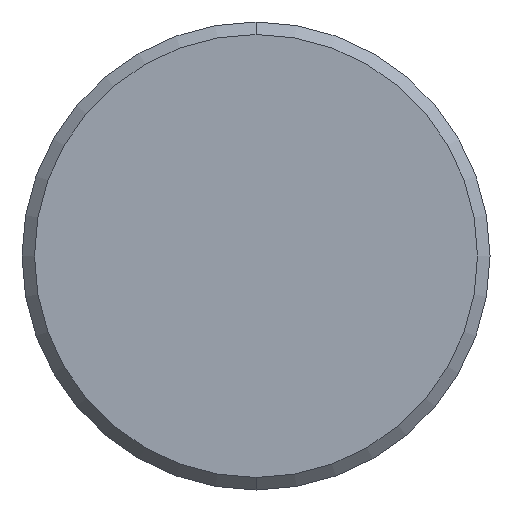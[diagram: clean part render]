
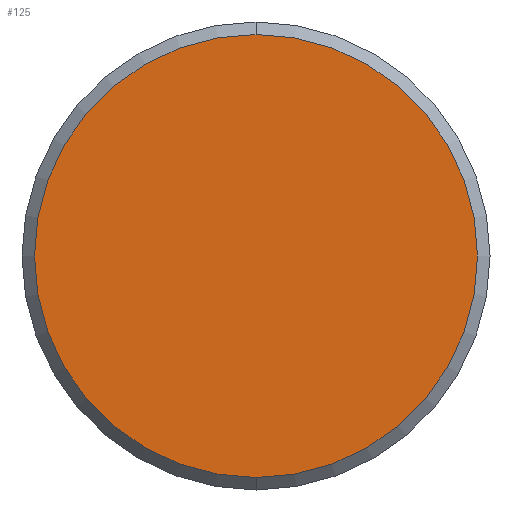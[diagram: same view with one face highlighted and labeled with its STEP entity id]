
A CAD part, front view. The second image highlights one B-rep face of the part: STEP entity #125.
In plain terms, the highlighted planar face has unit normal (0, -1, 0).
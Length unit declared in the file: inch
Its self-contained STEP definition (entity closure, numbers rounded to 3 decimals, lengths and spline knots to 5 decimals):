
#36 = EDGE_CURVE ( 'NONE', #92, #58, #250, .T. ) ;
#58 = VERTEX_POINT ( 'NONE', #343 ) ;
#69 = DIRECTION ( 'NONE',  ( 0., 0., -1. ) ) ;
#92 = VERTEX_POINT ( 'NONE', #409 ) ;
#104 = FACE_OUTER_BOUND ( 'NONE', #371, .T. ) ;
#122 = CIRCLE ( 'NONE', #285, 0.1775 ) ;
#125 = ADVANCED_FACE ( 'NONE', ( #104 ), #248, .T. ) ;
#153 = AXIS2_PLACEMENT_3D ( 'NONE', #217, #339, #69 ) ;
#185 = DIRECTION ( 'NONE',  ( 0., -1., 0. ) ) ;
#204 = EDGE_CURVE ( 'NONE', #58, #92, #122, .T. ) ;
#212 = ORIENTED_EDGE ( 'NONE', *, *, #36, .T. ) ;
#217 = CARTESIAN_POINT ( 'NONE',  ( 0., 0., 0. ) ) ;
#248 = PLANE ( 'NONE',  #153 ) ;
#250 = CIRCLE ( 'NONE', #294, 0.1775 ) ;
#285 = AXIS2_PLACEMENT_3D ( 'NONE', #405, #185, #312 ) ;
#294 = AXIS2_PLACEMENT_3D ( 'NONE', #324, #375, #379 ) ;
#312 = DIRECTION ( 'NONE',  ( 0., 0., -1. ) ) ;
#324 = CARTESIAN_POINT ( 'NONE',  ( 0., 0., 0. ) ) ;
#339 = DIRECTION ( 'NONE',  ( 0., -1., 0. ) ) ;
#343 = CARTESIAN_POINT ( 'NONE',  ( 0., 0., 0.1775 ) ) ;
#359 = ORIENTED_EDGE ( 'NONE', *, *, #204, .T. ) ;
#371 = EDGE_LOOP ( 'NONE', ( #359, #212 ) ) ;
#375 = DIRECTION ( 'NONE',  ( 0., -1., 0. ) ) ;
#379 = DIRECTION ( 'NONE',  ( 0., 0., -1. ) ) ;
#405 = CARTESIAN_POINT ( 'NONE',  ( 0., 0., 0. ) ) ;
#409 = CARTESIAN_POINT ( 'NONE',  ( 0., 0., -0.1775 ) ) ;
